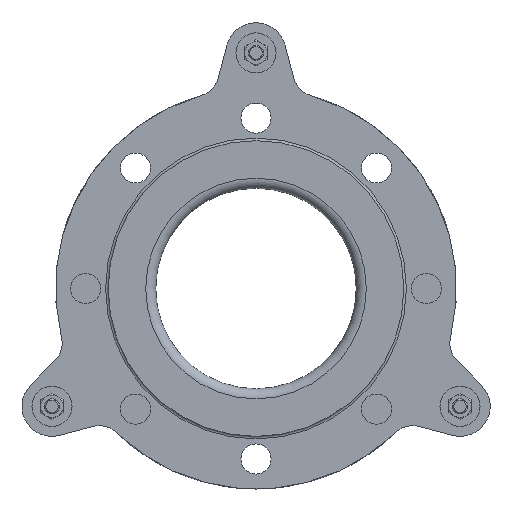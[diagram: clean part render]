
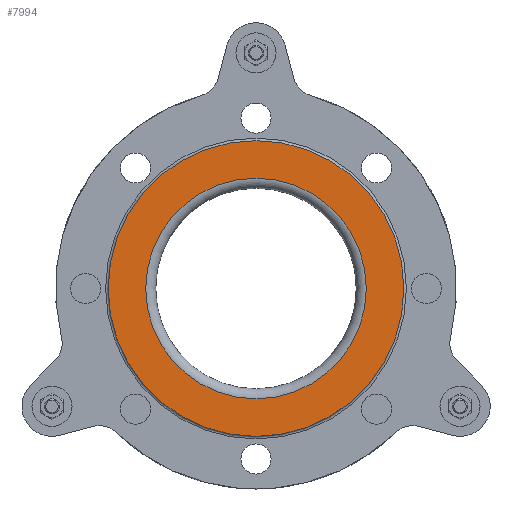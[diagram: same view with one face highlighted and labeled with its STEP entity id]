
A CAD part, left-side view. The second image highlights one B-rep face of the part: STEP entity #7994.
In plain terms, the highlighted planar face has unit normal (-1, 0, 0).
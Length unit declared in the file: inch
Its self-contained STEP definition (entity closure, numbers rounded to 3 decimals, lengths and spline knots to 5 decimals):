
#1359=FACE_BOUND('',#2491,.T.);
#1805=FACE_OUTER_BOUND('',#2490,.T.);
#2490=EDGE_LOOP('',(#6521));
#2491=EDGE_LOOP('',(#6522));
#2997=CIRCLE('',#8889,3.6875);
#2998=CIRCLE('',#8891,2.75);
#3636=VERTEX_POINT('',#14236);
#3637=VERTEX_POINT('',#14239);
#4612=EDGE_CURVE('',#3636,#3636,#2997,.T.);
#4613=EDGE_CURVE('',#3637,#3637,#2998,.T.);
#6521=ORIENTED_EDGE('',*,*,#4612,.T.);
#6522=ORIENTED_EDGE('',*,*,#4613,.F.);
#7043=PLANE('',#8890);
#7994=ADVANCED_FACE('',(#1805,#1359),#7043,.T.);
#8889=AXIS2_PLACEMENT_3D('',#14237,#10834,#10835);
#8890=AXIS2_PLACEMENT_3D('',#14238,#10836,#10837);
#8891=AXIS2_PLACEMENT_3D('',#14240,#10838,#10839);
#10834=DIRECTION('center_axis',(-1.,0.,0.));
#10835=DIRECTION('ref_axis',(0.,-1.,0.));
#10836=DIRECTION('center_axis',(-1.,0.,0.));
#10837=DIRECTION('ref_axis',(0.,-1.,0.));
#10838=DIRECTION('center_axis',(-1.,0.,0.));
#10839=DIRECTION('ref_axis',(0.,-1.,0.));
#14236=CARTESIAN_POINT('',(-1.625,0.,3.6875));
#14237=CARTESIAN_POINT('Origin',(-1.625,0.,0.));
#14238=CARTESIAN_POINT('Origin',(-1.625,0.,2.75));
#14239=CARTESIAN_POINT('',(-1.625,0.,2.75));
#14240=CARTESIAN_POINT('Origin',(-1.625,0.,0.));
